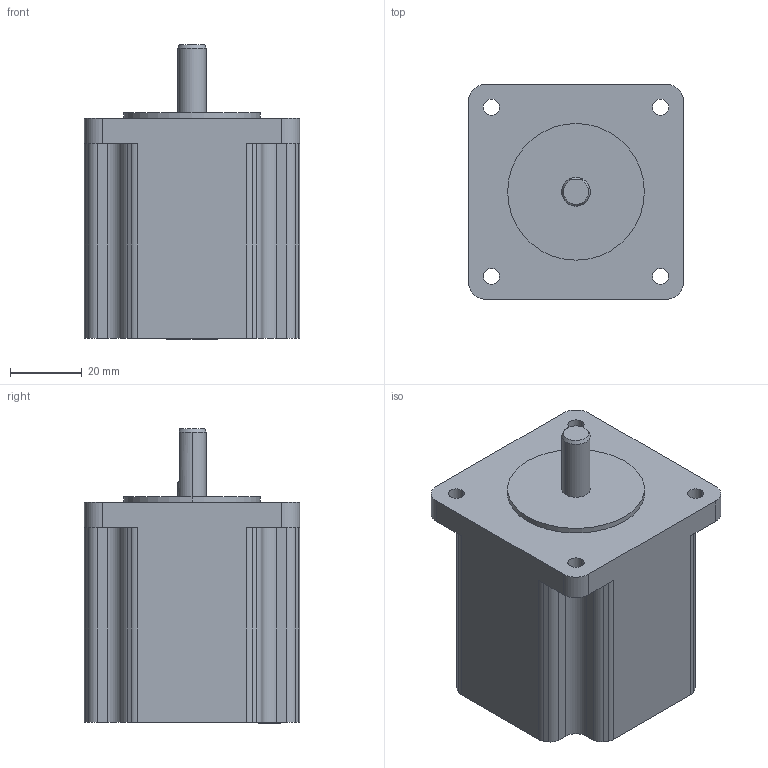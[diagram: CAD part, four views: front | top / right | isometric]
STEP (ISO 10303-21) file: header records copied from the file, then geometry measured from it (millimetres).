
FILE_DESCRIPTION((''),'2;1');
FILE_NAME('80MPF_61_3','2010-02-16T',('maird'),('Bernecker & Rainer'),'PRO/ENGINEER BY PARAMETRIC TECHNOLOGY CORPORATION, 2008490','PRO/ENGINEER BY PARAMETRIC TECHNOLOGY CORPORATION, 2008490','');
FILE_SCHEMA(('AUTOMOTIVE_DESIGN { 1 2 10303 214 0 1 1 1 }'));
Length unit declared in the file: millimetre
Products named in the file (1): 80MPF_61_3
Bounding box: 60 x 60 x 82.2 mm (x, y, z)
Volume: 197396.9 mm3; surface area: 22125.1 mm2
Topology: 1 solids, 1 shells, 145 faces, 363 edges, 235 vertices
Faces by surface type: cylinder 83, plane 61, cone 1
Entity records: 5958 total; most frequent: DIRECTION 816, CARTESIAN_POINT 775, ORIENTED_EDGE 726, PRESENTATION_STYLE_ASSIGNMENT 382, STYLED_ITEM 364, CURVE_STYLE 363, EDGE_CURVE 363, AXIS2_PLACEMENT_3D 311
